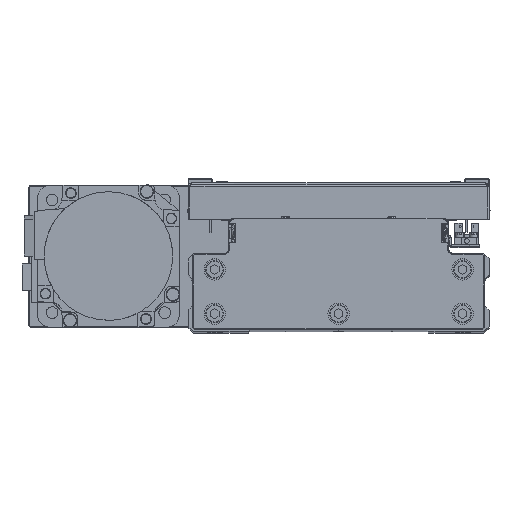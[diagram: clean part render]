
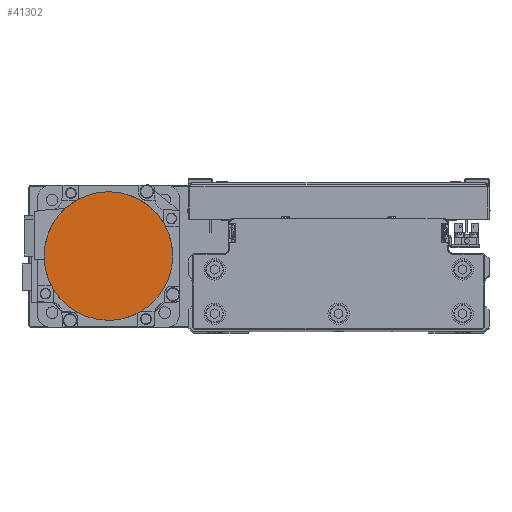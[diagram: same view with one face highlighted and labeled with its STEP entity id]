
A CAD part, top view. The second image highlights one B-rep face of the part: STEP entity #41302.
In plain terms, the highlighted planar face has unit normal (0, 0, 1) as drawn and (0, 0, -1) by its records, which use the part's own axes.
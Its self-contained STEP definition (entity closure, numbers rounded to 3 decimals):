
#966 = CARTESIAN_POINT ( 'NONE',  ( -2.376, -36.3, -122.2 ) ) ;
#1117 = AXIS2_PLACEMENT_3D ( 'NONE', #35462, #4817, #18464 ) ;
#1678 = CARTESIAN_POINT ( 'NONE',  ( 0., 0., -122.2 ) ) ;
#1891 = CARTESIAN_POINT ( 'NONE',  ( 0., -36.3, -122.2 ) ) ;
#2057 = CARTESIAN_POINT ( 'NONE',  ( -16.086, 32.628, -122.2 ) ) ;
#2478 = EDGE_LOOP ( 'NONE', ( #3460, #5762, #36292, #7505 ) ) ;
#2759 = VERTEX_POINT ( 'NONE', #37383 ) ;
#2928 = CARTESIAN_POINT ( 'NONE',  ( -34.446, -11.696, -122.2 ) ) ;
#3303 = DIRECTION ( 'NONE',  ( 0., 0., 1. ) ) ;
#3460 = ORIENTED_EDGE ( 'NONE', *, *, #28785, .F. ) ;
#4320 = CARTESIAN_POINT ( 'NONE',  ( -11.696, -34.446, -122.2 ) ) ;
#4817 = DIRECTION ( 'NONE',  ( 0., 0., 1. ) ) ;
#5387 = CARTESIAN_POINT ( 'NONE',  ( -4.752, 36.066, -122.2 ) ) ;
#5616 = CARTESIAN_POINT ( 'NONE',  ( -36.066, 4.752, -122.2 ) ) ;
#5762 = ORIENTED_EDGE ( 'NONE', *, *, #36900, .F. ) ;
#6280 = CARTESIAN_POINT ( 'NONE',  ( -36.3, -2.376, -122.2 ) ) ;
#6643 = FACE_OUTER_BOUND ( 'NONE', #2478, .T. ) ;
#7505 = ORIENTED_EDGE ( 'NONE', *, *, #12071, .F. ) ;
#8970 = CARTESIAN_POINT ( 'NONE',  ( -32.628, 16.086, -122.2 ) ) ;
#9863 = CARTESIAN_POINT ( 'NONE',  ( -18.192, -31.502, -122.2 ) ) ;
#11688 = CARTESIAN_POINT ( 'NONE',  ( 0., 36.3, -122.2 ) ) ;
#12071 = EDGE_CURVE ( 'NONE', #16905, #13718, #13938, .T. ) ;
#12314 = CARTESIAN_POINT ( 'NONE',  ( -27.348, 23.988, -122.2 ) ) ;
#13202 = CARTESIAN_POINT ( 'NONE',  ( -27.348, -23.988, -122.2 ) ) ;
#13718 = VERTEX_POINT ( 'NONE', #11688 ) ;
#13938 = CIRCLE ( 'NONE', #38937, 36.3 ) ;
#14592 = CARTESIAN_POINT ( 'NONE',  ( 0., -36.3, -122.2 ) ) ;
#15296 = DIRECTION ( 'NONE',  ( 0., 0., 1. ) ) ;
#15459 = AXIS2_PLACEMENT_3D ( 'NONE', #33935, #3303, #16943 ) ;
#15674 = CARTESIAN_POINT ( 'NONE',  ( -18.192, 31.502, -122.2 ) ) ;
#16551 = CARTESIAN_POINT ( 'NONE',  ( -32.628, -16.086, -122.2 ) ) ;
#16905 = VERTEX_POINT ( 'NONE', #40328 ) ;
#16943 = DIRECTION ( 'NONE',  ( 1., 0., 0. ) ) ;
#17963 = CARTESIAN_POINT ( 'NONE',  ( -9.412, -35.139, -122.2 ) ) ;
#18464 = DIRECTION ( 'NONE',  ( -1., 0., 0. ) ) ;
#19055 = CARTESIAN_POINT ( 'NONE',  ( -9.412, 35.139, -122.2 ) ) ;
#19267 = CARTESIAN_POINT ( 'NONE',  ( -36.3, 2.376, -122.2 ) ) ;
#19932 = CARTESIAN_POINT ( 'NONE',  ( -36.066, -4.752, -122.2 ) ) ;
#20298 = PLANE ( 'NONE',  #15459 ) ;
#20403 = CIRCLE ( 'NONE', #1117, 36.3 ) ;
#22401 = CARTESIAN_POINT ( 'NONE',  ( 0., 36.3, -122.2 ) ) ;
#22634 = CARTESIAN_POINT ( 'NONE',  ( -34.446, 11.696, -122.2 ) ) ;
#25966 = CARTESIAN_POINT ( 'NONE',  ( -28.862, 22.143, -122.2 ) ) ;
#26871 = CARTESIAN_POINT ( 'NONE',  ( -23.988, -27.348, -122.2 ) ) ;
#28785 = EDGE_CURVE ( 'NONE', #43201, #16905, #20403, .T. ) ;
#28975 = DIRECTION ( 'NONE',  ( -1., 0., 0. ) ) ;
#29341 = CARTESIAN_POINT ( 'NONE',  ( -22.143, 28.862, -122.2 ) ) ;
#30221 = CARTESIAN_POINT ( 'NONE',  ( -31.502, -18.192, -122.2 ) ) ;
#31612 = CARTESIAN_POINT ( 'NONE',  ( -4.752, -36.066, -122.2 ) ) ;
#32704 = CARTESIAN_POINT ( 'NONE',  ( -11.696, 34.446, -122.2 ) ) ;
#32911 = CARTESIAN_POINT ( 'NONE',  ( -36.3, 0., -122.2 ) ) ;
#33572 = CARTESIAN_POINT ( 'NONE',  ( -35.139, -9.412, -122.2 ) ) ;
#33935 = CARTESIAN_POINT ( 'NONE',  ( 0., 0., -122.2 ) ) ;
#34966 = CARTESIAN_POINT ( 'NONE',  ( -16.086, -32.628, -122.2 ) ) ;
#35462 = CARTESIAN_POINT ( 'NONE',  ( 0., 0., -122.2 ) ) ;
#35661 = EDGE_CURVE ( 'NONE', #13718, #2759, #36572, .T. ) ;
#36035 = CARTESIAN_POINT ( 'NONE',  ( -2.376, 36.3, -122.2 ) ) ;
#36273 = CARTESIAN_POINT ( 'NONE',  ( -35.139, 9.412, -122.2 ) ) ;
#36292 = ORIENTED_EDGE ( 'NONE', *, *, #35661, .F. ) ;
#36572 = B_SPLINE_CURVE_WITH_KNOTS ( 'NONE', 3,
 ( #22401, #36035, #5387, #19055, #32704, #2057, #15674, #29341, #42950, #12314, #25966, #39588, #8970, #22634, #36273, #5616, #19267, #32911 ),
 .UNSPECIFIED., .F., .F.,
 ( 4, 2, 2, 2, 2, 2, 2, 2, 4 ),
 ( 0., 0.125, 0.25, 0.375, 0.5, 0.625, 0.75, 0.875, 1. ),
 .UNSPECIFIED. ) ;
#36900 = EDGE_CURVE ( 'NONE', #2759, #43201, #38064, .T. ) ;
#36925 = CARTESIAN_POINT ( 'NONE',  ( -36.3, 0., -122.2 ) ) ;
#37383 = CARTESIAN_POINT ( 'NONE',  ( -36.3, 0., -122.2 ) ) ;
#38064 = B_SPLINE_CURVE_WITH_KNOTS ( 'NONE', 3,
 ( #36925, #6280, #19932, #33572, #2928, #16551, #30221, #43830, #13202, #26871, #40489, #9863, #34966, #4320, #17963, #31612, #966, #14592 ),
 .UNSPECIFIED., .F., .F.,
 ( 4, 2, 2, 2, 2, 2, 2, 2, 4 ),
 ( 0., 0.125, 0.25, 0.375, 0.5, 0.625, 0.75, 0.875, 1. ),
 .UNSPECIFIED. ) ;
#38937 = AXIS2_PLACEMENT_3D ( 'NONE', #1678, #15296, #28975 ) ;
#39588 = CARTESIAN_POINT ( 'NONE',  ( -31.502, 18.192, -122.2 ) ) ;
#40328 = CARTESIAN_POINT ( 'NONE',  ( 36.3, 0., -122.2 ) ) ;
#40489 = CARTESIAN_POINT ( 'NONE',  ( -22.143, -28.862, -122.2 ) ) ;
#41302 = ADVANCED_FACE ( 'NONE', ( #6643 ), #20298, .F. ) ;
#42950 = CARTESIAN_POINT ( 'NONE',  ( -23.988, 27.348, -122.2 ) ) ;
#43201 = VERTEX_POINT ( 'NONE', #1891 ) ;
#43830 = CARTESIAN_POINT ( 'NONE',  ( -28.862, -22.143, -122.2 ) ) ;
